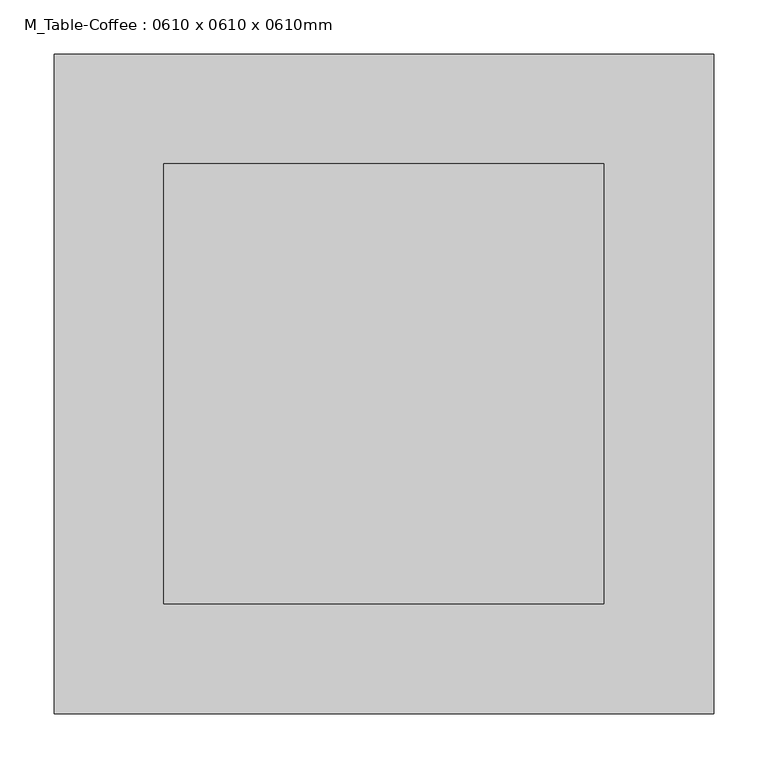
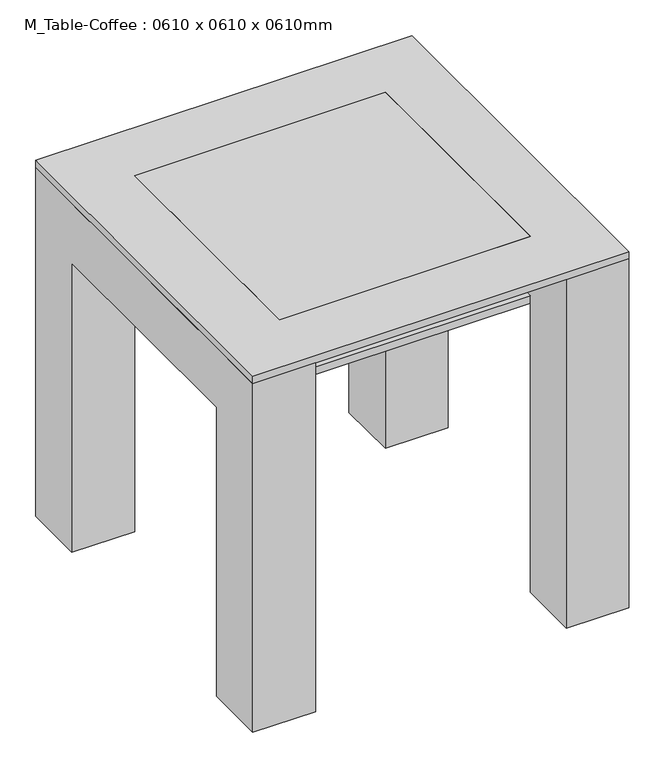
"""IFC4 building model written with IfcOpenShell, lengths in millimetres: furniture geometry, M_Table-Coffee : 0610 x 0610 x 0610mm."""

from ifc_helpers import new_model, si_unit, frame, origin, place, context, project, spatial, polyline, outline, extrude, source, transform, mapped, element, save


def m_table_coffee_0610_x_0610_x_0610mm_65ce43c2(model_context):
    return source(origin(), model_context, "Body", "SweptSolid", [
        extrude(outline(polyline([(221.6657667, 298.6110778), (221.6657667, -108.1889222), (-185.1342333, -108.1889222), (-185.1342333, 298.6110778), (221.6657667, 298.6110778)])), frame((0.0, 0.0, 495.7), z_axis=(0.0, 0.0, 1.0), x_axis=(1.0, 0.0, 0.0)), (0.0, 0.0, 1.0), 12.7),
        extrude(outline(polyline([(400.2110778, 0.0), (298.6110778, 0.0), (298.6110778, 495.7), (-108.1889222, 495.7), (-108.1889222, 0.0), (-209.7889222, 0.0), (-209.7889222, 597.3), (400.2110778, 597.3), (400.2110778, 0.0)])), frame((221.6657667, 0.0, 0.0), z_axis=(1.0, 0.0, 0.0), x_axis=(0.0, 1.0, 0.0)), (0.0, 0.0, 1.0), 101.6),
        extrude(outline(polyline([(400.2110778, 597.3), (400.2110778, 0.0), (298.6110778, 0.0), (298.6110778, 495.7), (-108.1889222, 495.7), (-108.1889222, 0.0), (-209.7889222, 0.0), (-209.7889222, 597.3), (400.2110778, 597.3)])), frame((-286.7342333, 0.0, 0.0), z_axis=(1.0, 0.0, 0.0), x_axis=(0.0, 1.0, 0.0)), (0.0, 0.0, 1.0), 101.6),
        extrude(outline(polyline([(221.6657667, 298.6110778), (221.6657667, -108.1889222), (-185.1342333, -108.1889222), (-185.1342333, 298.6110778), (221.6657667, 298.6110778)])), frame((0.0, 0.0, 597.3), z_axis=(0.0, 0.0, 1.0), x_axis=(1.0, 0.0, 0.0)), (0.0, 0.0, 1.0), 12.7),
        extrude(outline(polyline([(323.2657667, 400.2110778), (323.2657667, -209.7889222), (-286.7342333, -209.7889222), (-286.7342333, 400.2110778), (323.2657667, 400.2110778)]), holes=[polyline([(221.6657667, 298.6110778), (-185.1342333, 298.6110778), (-185.1342333, -108.1889222), (221.6657667, -108.1889222), (221.6657667, 298.6110778)])]), frame((0.0, 0.0, 597.3), z_axis=(0.0, 0.0, 1.0), x_axis=(1.0, 0.0, 0.0)), (0.0, 0.0, 1.0), 12.7),
    ])


if __name__ == "__main__":
    model = new_model("IFC4")
    model_context = context("Model", 3, world=origin())
    ifc_project = project(units=[si_unit("LENGTHUNIT", "METRE", prefix="MILLI")], contexts=[model_context])
    site = spatial("IfcSite", under=ifc_project)
    building = spatial("IfcBuilding", under=site)
    placement = place(None, origin())
    m_table_coffee_0610_x_0610_x_0610mm_shape = m_table_coffee_0610_x_0610_x_0610mm_65ce43c2(model_context)
    element("IfcFurniture", 1, ObjectType="M_Table-Coffee : 0610 x 0610 x 0610mm", at=placement, inside=building, context=model_context, shape_type="MappedRepresentation", body=[
        mapped(m_table_coffee_0610_x_0610_x_0610mm_shape, transform((0.0, 0.0, 0.0), x_axis=(1.0, 0.0, 0.0), y_axis=(0.0, 1.0, 0.0), z_axis=(0.0, 0.0, 1.0))),
    ])
    save(model, "model.ifc")
